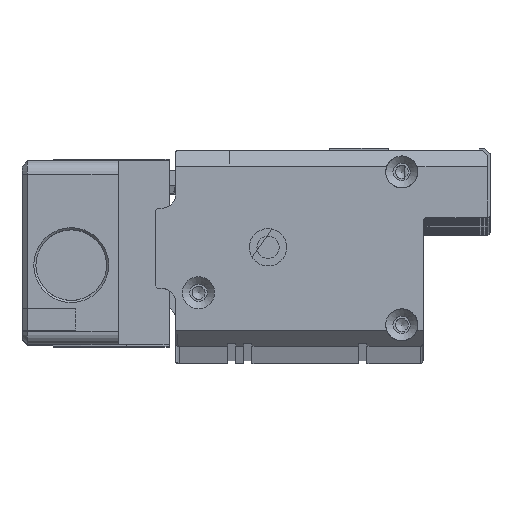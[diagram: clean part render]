
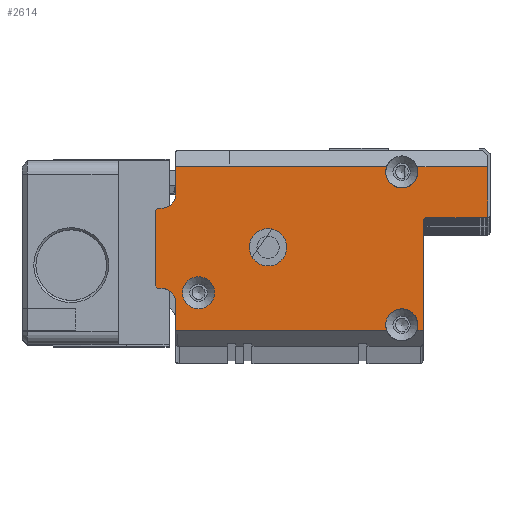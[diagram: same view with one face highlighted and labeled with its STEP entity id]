
A CAD part, top view. The second image highlights one B-rep face of the part: STEP entity #2614.
In plain terms, the highlighted planar face has unit normal (0, 0, 1).
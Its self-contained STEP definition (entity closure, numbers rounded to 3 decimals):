
#2614=ADVANCED_FACE('',(#7772,#7773,#7774),#3382,.T.);
#3382=PLANE('',#23126);
#5166=LINE('',#35704,#7196);
#5167=LINE('',#35706,#7197);
#5168=LINE('',#35710,#7198);
#5169=LINE('',#35714,#7199);
#5170=LINE('',#35716,#7200);
#5171=LINE('',#35720,#7201);
#5172=LINE('',#35722,#7202);
#5173=LINE('',#35726,#7203);
#5174=LINE('',#35730,#7204);
#5175=LINE('',#35734,#7205);
#5176=LINE('',#35738,#7206);
#5177=LINE('',#35740,#7207);
#7196=VECTOR('',#28510,1.);
#7197=VECTOR('',#28511,1.);
#7198=VECTOR('',#28514,1.);
#7199=VECTOR('',#28517,1.);
#7200=VECTOR('',#28518,1.);
#7201=VECTOR('',#28521,1.);
#7202=VECTOR('',#28522,1.);
#7203=VECTOR('',#28525,1.);
#7204=VECTOR('',#28528,1.);
#7205=VECTOR('',#28531,1.);
#7206=VECTOR('',#28534,1.);
#7207=VECTOR('',#28535,1.);
#7772=FACE_BOUND('',#8871,.T.);
#7773=FACE_BOUND('',#8872,.T.);
#7774=FACE_BOUND('',#8873,.T.);
#8871=EDGE_LOOP('',(#14290));
#8872=EDGE_LOOP('',(#14291,#14292,#14293,#14294,#14295,#14296,#14297,#14298,
#14299,#14300,#14301,#14302,#14303,#14304,#14305,#14306,#14307,#14308,#14309,
#14310));
#8873=EDGE_LOOP('',(#14311));
#14290=ORIENTED_EDGE('',*,*,#20064,.T.);
#14291=ORIENTED_EDGE('',*,*,#20065,.T.);
#14292=ORIENTED_EDGE('',*,*,#20066,.T.);
#14293=ORIENTED_EDGE('',*,*,#20067,.T.);
#14294=ORIENTED_EDGE('',*,*,#20068,.T.);
#14295=ORIENTED_EDGE('',*,*,#20069,.T.);
#14296=ORIENTED_EDGE('',*,*,#20070,.T.);
#14297=ORIENTED_EDGE('',*,*,#20071,.T.);
#14298=ORIENTED_EDGE('',*,*,#20072,.T.);
#14299=ORIENTED_EDGE('',*,*,#20073,.T.);
#14300=ORIENTED_EDGE('',*,*,#20074,.T.);
#14301=ORIENTED_EDGE('',*,*,#20075,.T.);
#14302=ORIENTED_EDGE('',*,*,#20076,.T.);
#14303=ORIENTED_EDGE('',*,*,#20077,.T.);
#14304=ORIENTED_EDGE('',*,*,#20078,.T.);
#14305=ORIENTED_EDGE('',*,*,#20079,.T.);
#14306=ORIENTED_EDGE('',*,*,#20080,.T.);
#14307=ORIENTED_EDGE('',*,*,#20081,.T.);
#14308=ORIENTED_EDGE('',*,*,#20082,.T.);
#14309=ORIENTED_EDGE('',*,*,#20083,.T.);
#14310=ORIENTED_EDGE('',*,*,#20084,.T.);
#14311=ORIENTED_EDGE('',*,*,#20085,.T.);
#17127=VERTEX_POINT('',#35700);
#17128=VERTEX_POINT('',#35702);
#17129=VERTEX_POINT('',#35703);
#17130=VERTEX_POINT('',#35705);
#17131=VERTEX_POINT('',#35707);
#17132=VERTEX_POINT('',#35709);
#17133=VERTEX_POINT('',#35711);
#17134=VERTEX_POINT('',#35713);
#17135=VERTEX_POINT('',#35715);
#17136=VERTEX_POINT('',#35717);
#17137=VERTEX_POINT('',#35719);
#17138=VERTEX_POINT('',#35721);
#17139=VERTEX_POINT('',#35723);
#17140=VERTEX_POINT('',#35725);
#17141=VERTEX_POINT('',#35727);
#17142=VERTEX_POINT('',#35729);
#17143=VERTEX_POINT('',#35731);
#17144=VERTEX_POINT('',#35733);
#17145=VERTEX_POINT('',#35735);
#17146=VERTEX_POINT('',#35737);
#17147=VERTEX_POINT('',#35739);
#17148=VERTEX_POINT('',#35742);
#20064=EDGE_CURVE('',#17127,#17127,#21309,.T.);
#20065=EDGE_CURVE('',#17128,#17129,#21310,.T.);
#20066=EDGE_CURVE('',#17129,#17130,#5166,.T.);
#20067=EDGE_CURVE('',#17130,#17131,#5167,.T.);
#20068=EDGE_CURVE('',#17131,#17132,#21311,.T.);
#20069=EDGE_CURVE('',#17132,#17133,#5168,.T.);
#20070=EDGE_CURVE('',#17133,#17134,#21312,.T.);
#20071=EDGE_CURVE('',#17134,#17135,#5169,.T.);
#20072=EDGE_CURVE('',#17135,#17136,#5170,.T.);
#20073=EDGE_CURVE('',#17136,#17137,#21313,.T.);
#20074=EDGE_CURVE('',#17137,#17138,#5171,.T.);
#20075=EDGE_CURVE('',#17138,#17139,#5172,.T.);
#20076=EDGE_CURVE('',#17139,#17140,#21314,.T.);
#20077=EDGE_CURVE('',#17140,#17141,#5173,.T.);
#20078=EDGE_CURVE('',#17141,#17142,#21315,.T.);
#20079=EDGE_CURVE('',#17142,#17143,#5174,.T.);
#20080=EDGE_CURVE('',#17143,#17144,#21316,.T.);
#20081=EDGE_CURVE('',#17144,#17145,#5175,.T.);
#20082=EDGE_CURVE('',#17145,#17146,#21317,.T.);
#20083=EDGE_CURVE('',#17146,#17147,#5176,.T.);
#20084=EDGE_CURVE('',#17147,#17128,#5177,.T.);
#20085=EDGE_CURVE('',#17148,#17148,#21318,.T.);
#21309=CIRCLE('',#23116,3.);
#21310=CIRCLE('',#23117,3.);
#21311=CIRCLE('',#23118,0.5);
#21312=CIRCLE('',#23119,0.5);
#21313=CIRCLE('',#23120,3.);
#21314=CIRCLE('',#23121,2.5);
#21315=CIRCLE('',#23122,0.5);
#21316=CIRCLE('',#23123,0.5);
#21317=CIRCLE('',#23124,2.5);
#21318=CIRCLE('',#23125,3.5);
#23116=AXIS2_PLACEMENT_3D('',#35699,#28506,#28507);
#23117=AXIS2_PLACEMENT_3D('',#35701,#28508,#28509);
#23118=AXIS2_PLACEMENT_3D('',#35708,#28512,#28513);
#23119=AXIS2_PLACEMENT_3D('',#35712,#28515,#28516);
#23120=AXIS2_PLACEMENT_3D('',#35718,#28519,#28520);
#23121=AXIS2_PLACEMENT_3D('',#35724,#28523,#28524);
#23122=AXIS2_PLACEMENT_3D('',#35728,#28526,#28527);
#23123=AXIS2_PLACEMENT_3D('',#35732,#28529,#28530);
#23124=AXIS2_PLACEMENT_3D('',#35736,#28532,#28533);
#23125=AXIS2_PLACEMENT_3D('',#35741,#28536,#28537);
#23126=AXIS2_PLACEMENT_3D('',#35743,#28538,#28539);
#28506=DIRECTION('',(0.,0.,-1.));
#28507=DIRECTION('',(-1.,0.,0.));
#28508=DIRECTION('',(0.,0.,-1.));
#28509=DIRECTION('',(-1.,0.,0.));
#28510=DIRECTION('',(1.,0.,0.));
#28511=DIRECTION('',(0.,1.,0.));
#28512=DIRECTION('',(0.,0.,-1.));
#28513=DIRECTION('',(1.,0.,0.));
#28514=DIRECTION('',(1.,0.,0.));
#28515=DIRECTION('',(0.,0.,1.));
#28516=DIRECTION('',(1.,0.,0.));
#28517=DIRECTION('',(0.,1.,0.));
#28518=DIRECTION('',(-1.,0.,0.));
#28519=DIRECTION('',(0.,0.,-1.));
#28520=DIRECTION('',(-1.,0.,0.));
#28521=DIRECTION('',(-1.,0.,0.));
#28522=DIRECTION('',(0.,-1.,0.));
#28523=DIRECTION('',(0.,0.,-1.));
#28524=DIRECTION('',(1.,0.,0.));
#28525=DIRECTION('',(-1.,0.,0.));
#28526=DIRECTION('',(0.,0.,1.));
#28527=DIRECTION('',(1.,0.,0.));
#28528=DIRECTION('',(0.,-1.,0.));
#28529=DIRECTION('',(0.,0.,1.));
#28530=DIRECTION('',(1.,0.,0.));
#28531=DIRECTION('',(1.,0.,0.));
#28532=DIRECTION('',(0.,0.,-1.));
#28533=DIRECTION('',(1.,0.,0.));
#28534=DIRECTION('',(0.,-1.,0.));
#28535=DIRECTION('',(1.,0.,0.));
#28536=DIRECTION('',(0.,0.,-1.));
#28537=DIRECTION('',(-1.,0.,0.));
#28538=DIRECTION('',(0.,0.,1.));
#28539=DIRECTION('',(-1.,0.,0.));
#35699=CARTESIAN_POINT('',(8.,-26.6,8.));
#35700=CARTESIAN_POINT('',(5.,-26.6,8.));
#35701=CARTESIAN_POINT('',(46.,-32.6,8.));
#35702=CARTESIAN_POINT('',(43.172,-33.6,8.));
#35703=CARTESIAN_POINT('',(48.828,-33.6,8.));
#35704=CARTESIAN_POINT('',(50.,-33.6,8.));
#35705=CARTESIAN_POINT('',(50.,-33.6,8.));
#35706=CARTESIAN_POINT('',(50.,-36.6,8.));
#35707=CARTESIAN_POINT('',(50.,-13.1,8.));
#35708=CARTESIAN_POINT('',(50.5,-13.1,8.));
#35709=CARTESIAN_POINT('',(50.5,-12.6,8.));
#35710=CARTESIAN_POINT('',(50.,-12.6,8.));
#35711=CARTESIAN_POINT('',(61.6,-12.6,8.));
#35712=CARTESIAN_POINT('',(61.6,-12.1,8.));
#35713=CARTESIAN_POINT('',(62.1,-12.1,8.));
#35714=CARTESIAN_POINT('',(62.1,-12.6,8.));
#35715=CARTESIAN_POINT('',(62.1,-3.,8.));
#35716=CARTESIAN_POINT('',(3.7,-3.,8.));
#35717=CARTESIAN_POINT('',(48.828,-3.,8.));
#35718=CARTESIAN_POINT('',(46.,-4.,8.));
#35719=CARTESIAN_POINT('',(43.172,-3.,8.));
#35720=CARTESIAN_POINT('',(3.7,-3.,8.));
#35721=CARTESIAN_POINT('',(3.7,-3.,8.));
#35722=CARTESIAN_POINT('',(3.7,0.,8.));
#35723=CARTESIAN_POINT('',(3.7,-8.3,8.));
#35724=CARTESIAN_POINT('',(1.2,-8.3,8.));
#35725=CARTESIAN_POINT('',(1.2,-10.8,8.));
#35726=CARTESIAN_POINT('',(3.7,-10.8,8.));
#35727=CARTESIAN_POINT('',(0.5,-10.8,8.));
#35728=CARTESIAN_POINT('',(0.5,-11.3,8.));
#35729=CARTESIAN_POINT('',(0.,-11.3,8.));
#35730=CARTESIAN_POINT('',(0.,-10.8,8.));
#35731=CARTESIAN_POINT('',(0.,-25.3,8.));
#35732=CARTESIAN_POINT('',(0.5,-25.3,8.));
#35733=CARTESIAN_POINT('',(0.5,-25.8,8.));
#35734=CARTESIAN_POINT('',(0.,-25.8,8.));
#35735=CARTESIAN_POINT('',(1.2,-25.8,8.));
#35736=CARTESIAN_POINT('',(1.2,-28.3,8.));
#35737=CARTESIAN_POINT('',(3.7,-28.3,8.));
#35738=CARTESIAN_POINT('',(3.7,-25.8,8.));
#35739=CARTESIAN_POINT('',(3.7,-33.6,8.));
#35740=CARTESIAN_POINT('',(50.,-33.6,8.));
#35741=CARTESIAN_POINT('',(21.,-18.1,8.));
#35742=CARTESIAN_POINT('',(17.5,-18.1,8.));
#35743=CARTESIAN_POINT('',(0.,0.,8.));
